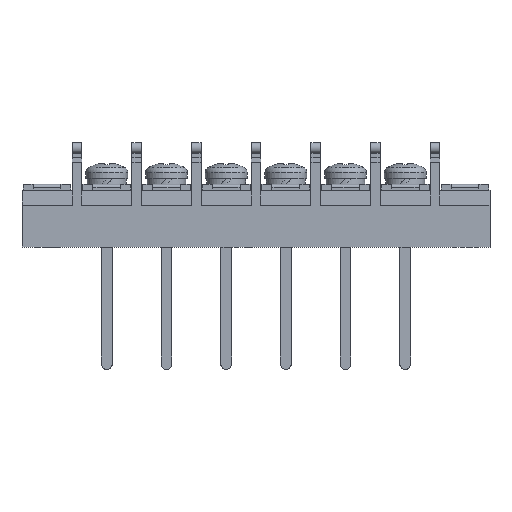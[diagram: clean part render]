
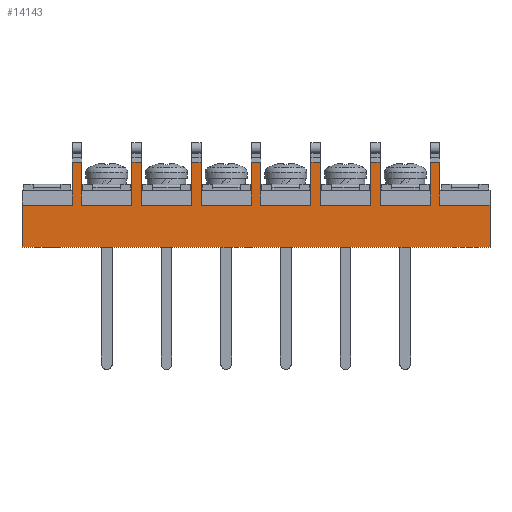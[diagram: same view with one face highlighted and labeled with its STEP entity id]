
A CAD part, top view. The second image highlights one B-rep face of the part: STEP entity #14143.
In plain terms, the highlighted planar face has unit normal (0, 0, 1).
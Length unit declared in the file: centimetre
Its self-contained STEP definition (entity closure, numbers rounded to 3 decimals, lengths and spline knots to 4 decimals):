
#993=VECTOR('',#15877,1.);
#1003=VECTOR('',#15892,1.);
#1133=VECTOR('',#16209,1.);
#1159=VECTOR('',#16238,1.);
#1204=VECTOR('',#16299,1.);
#1205=VECTOR('',#16301,1.);
#1206=VECTOR('',#16302,1.);
#1207=VECTOR('',#16303,1.);
#1208=VECTOR('',#16304,1.);
#1209=VECTOR('',#16305,1.);
#1210=VECTOR('',#16306,1.);
#1211=VECTOR('',#16307,1.);
#1212=VECTOR('',#16308,1.);
#1213=VECTOR('',#16309,1.);
#1214=VECTOR('',#16310,1.);
#1215=VECTOR('',#16311,1.);
#1216=VECTOR('',#16312,1.);
#1217=VECTOR('',#16313,1.);
#1218=VECTOR('',#16314,1.);
#1219=VECTOR('',#16315,1.);
#1220=VECTOR('',#16316,1.);
#1221=VECTOR('',#16317,1.);
#1222=VECTOR('',#16318,1.);
#1223=VECTOR('',#16319,1.);
#1224=VECTOR('',#16320,1.);
#1225=VECTOR('',#16321,1.);
#1226=VECTOR('',#16322,1.);
#1227=VECTOR('',#16323,1.);
#1228=VECTOR('',#16324,1.);
#1229=VECTOR('',#16325,1.);
#1230=VECTOR('',#16326,1.);
#1231=VECTOR('',#16327,1.);
#2615=LINE('',#19857,#993);
#2625=LINE('',#19881,#1003);
#2755=LINE('',#20301,#1133);
#2781=LINE('',#20355,#1159);
#2826=LINE('',#20448,#1204);
#2827=LINE('',#20450,#1205);
#2828=LINE('',#20452,#1206);
#2829=LINE('',#20454,#1207);
#2830=LINE('',#20456,#1208);
#2831=LINE('',#20458,#1209);
#2832=LINE('',#20460,#1210);
#2833=LINE('',#20462,#1211);
#2834=LINE('',#20464,#1212);
#2835=LINE('',#20466,#1213);
#2836=LINE('',#20468,#1214);
#2837=LINE('',#20470,#1215);
#2838=LINE('',#20472,#1216);
#2839=LINE('',#20474,#1217);
#2840=LINE('',#20476,#1218);
#2841=LINE('',#20478,#1219);
#2842=LINE('',#20480,#1220);
#2843=LINE('',#20482,#1221);
#2844=LINE('',#20484,#1222);
#2845=LINE('',#20486,#1223);
#2846=LINE('',#20488,#1224);
#2847=LINE('',#20489,#1225);
#2848=LINE('',#20491,#1226);
#2849=LINE('',#20493,#1227);
#2850=LINE('',#20495,#1228);
#2851=LINE('',#20497,#1229);
#2852=LINE('',#20499,#1230);
#2853=LINE('',#20501,#1231);
#4229=VERTEX_POINT('',#19858);
#4230=VERTEX_POINT('',#19859);
#4239=VERTEX_POINT('',#19880);
#4368=VERTEX_POINT('',#20300);
#4369=VERTEX_POINT('',#20302);
#4395=VERTEX_POINT('',#20356);
#4430=VERTEX_POINT('',#20447);
#4431=VERTEX_POINT('',#20451);
#4432=VERTEX_POINT('',#20453);
#4433=VERTEX_POINT('',#20455);
#4434=VERTEX_POINT('',#20457);
#4435=VERTEX_POINT('',#20459);
#4436=VERTEX_POINT('',#20461);
#4437=VERTEX_POINT('',#20463);
#4438=VERTEX_POINT('',#20465);
#4439=VERTEX_POINT('',#20467);
#4440=VERTEX_POINT('',#20469);
#4441=VERTEX_POINT('',#20471);
#4442=VERTEX_POINT('',#20473);
#4443=VERTEX_POINT('',#20475);
#4444=VERTEX_POINT('',#20477);
#4445=VERTEX_POINT('',#20479);
#4446=VERTEX_POINT('',#20481);
#4447=VERTEX_POINT('',#20483);
#4448=VERTEX_POINT('',#20485);
#4449=VERTEX_POINT('',#20487);
#4450=VERTEX_POINT('',#20490);
#4451=VERTEX_POINT('',#20492);
#4452=VERTEX_POINT('',#20494);
#4453=VERTEX_POINT('',#20496);
#4454=VERTEX_POINT('',#20498);
#4455=VERTEX_POINT('',#20500);
#6084=EDGE_CURVE('',#4229,#4230,#2615,.T.);
#6095=EDGE_CURVE('',#4239,#4230,#2625,.T.);
#6282=EDGE_CURVE('',#4369,#4368,#2755,.T.);
#6309=EDGE_CURVE('',#4395,#4229,#2781,.T.);
#6356=EDGE_CURVE('',#4430,#4368,#2826,.T.);
#6357=EDGE_CURVE('',#4239,#4431,#2827,.T.);
#6358=EDGE_CURVE('',#4432,#4431,#2828,.T.);
#6359=EDGE_CURVE('',#4432,#4433,#2829,.T.);
#6360=EDGE_CURVE('',#4434,#4433,#2830,.T.);
#6361=EDGE_CURVE('',#4434,#4435,#2831,.T.);
#6362=EDGE_CURVE('',#4436,#4435,#2832,.T.);
#6363=EDGE_CURVE('',#4436,#4437,#2833,.T.);
#6364=EDGE_CURVE('',#4438,#4437,#2834,.T.);
#6365=EDGE_CURVE('',#4438,#4439,#2835,.T.);
#6366=EDGE_CURVE('',#4440,#4439,#2836,.T.);
#6367=EDGE_CURVE('',#4440,#4441,#2837,.T.);
#6368=EDGE_CURVE('',#4442,#4441,#2838,.T.);
#6369=EDGE_CURVE('',#4442,#4443,#2839,.T.);
#6370=EDGE_CURVE('',#4444,#4443,#2840,.T.);
#6371=EDGE_CURVE('',#4444,#4445,#2841,.T.);
#6372=EDGE_CURVE('',#4446,#4445,#2842,.T.);
#6373=EDGE_CURVE('',#4446,#4447,#2843,.T.);
#6374=EDGE_CURVE('',#4448,#4447,#2844,.T.);
#6375=EDGE_CURVE('',#4448,#4449,#2845,.T.);
#6376=EDGE_CURVE('',#4369,#4449,#2846,.T.);
#6377=EDGE_CURVE('',#4430,#4450,#2847,.T.);
#6378=EDGE_CURVE('',#4451,#4450,#2848,.T.);
#6379=EDGE_CURVE('',#4451,#4452,#2849,.T.);
#6380=EDGE_CURVE('',#4453,#4452,#2850,.T.);
#6381=EDGE_CURVE('',#4453,#4454,#2851,.T.);
#6382=EDGE_CURVE('',#4455,#4454,#2852,.T.);
#6383=EDGE_CURVE('',#4455,#4395,#2853,.T.);
#9228=ORIENTED_EDGE('',*,*,#6309,.T.);
#9229=ORIENTED_EDGE('',*,*,#6084,.T.);
#9230=ORIENTED_EDGE('',*,*,#6095,.F.);
#9231=ORIENTED_EDGE('',*,*,#6357,.T.);
#9232=ORIENTED_EDGE('',*,*,#6358,.F.);
#9233=ORIENTED_EDGE('',*,*,#6359,.T.);
#9234=ORIENTED_EDGE('',*,*,#6360,.F.);
#9235=ORIENTED_EDGE('',*,*,#6361,.T.);
#9236=ORIENTED_EDGE('',*,*,#6362,.F.);
#9237=ORIENTED_EDGE('',*,*,#6363,.T.);
#9238=ORIENTED_EDGE('',*,*,#6364,.F.);
#9239=ORIENTED_EDGE('',*,*,#6365,.T.);
#9240=ORIENTED_EDGE('',*,*,#6366,.F.);
#9241=ORIENTED_EDGE('',*,*,#6367,.T.);
#9242=ORIENTED_EDGE('',*,*,#6368,.F.);
#9243=ORIENTED_EDGE('',*,*,#6369,.T.);
#9244=ORIENTED_EDGE('',*,*,#6370,.F.);
#9245=ORIENTED_EDGE('',*,*,#6371,.T.);
#9246=ORIENTED_EDGE('',*,*,#6372,.F.);
#9247=ORIENTED_EDGE('',*,*,#6373,.T.);
#9248=ORIENTED_EDGE('',*,*,#6374,.F.);
#9249=ORIENTED_EDGE('',*,*,#6375,.T.);
#9250=ORIENTED_EDGE('',*,*,#6376,.F.);
#9251=ORIENTED_EDGE('',*,*,#6282,.T.);
#9252=ORIENTED_EDGE('',*,*,#6356,.F.);
#9253=ORIENTED_EDGE('',*,*,#6377,.T.);
#9254=ORIENTED_EDGE('',*,*,#6378,.F.);
#9255=ORIENTED_EDGE('',*,*,#6379,.T.);
#9256=ORIENTED_EDGE('',*,*,#6380,.F.);
#9257=ORIENTED_EDGE('',*,*,#6381,.T.);
#9258=ORIENTED_EDGE('',*,*,#6382,.F.);
#9259=ORIENTED_EDGE('',*,*,#6383,.T.);
#12362=EDGE_LOOP('',(#9228,#9229,#9230,#9231,#9232,#9233,#9234,#9235,#9236,
#9237,#9238,#9239,#9240,#9241,#9242,#9243,#9244,#9245,#9246,#9247,#9248,
#9249,#9250,#9251,#9252,#9253,#9254,#9255,#9256,#9257,#9258,#9259));
#13274=FACE_BOUND('',#12362,.T.);
#14143=ADVANCED_FACE('',(#13274),#14883,.T.);
#14883=PLANE('',#24146);
#15877=DIRECTION('',(0.,1.,0.));
#15892=DIRECTION('',(1.,0.,0.));
#16209=DIRECTION('',(0.,1.,0.));
#16238=DIRECTION('',(1.,0.,0.));
#16299=DIRECTION('',(1.,0.,0.));
#16300=DIRECTION('',(0.,0.,1.));
#16301=DIRECTION('',(0.,1.,0.));
#16302=DIRECTION('',(1.,0.,0.));
#16303=DIRECTION('',(0.,-1.,0.));
#16304=DIRECTION('',(1.,0.,0.));
#16305=DIRECTION('',(0.,1.,0.));
#16306=DIRECTION('',(1.,0.,0.));
#16307=DIRECTION('',(0.,-1.,0.));
#16308=DIRECTION('',(1.,0.,0.));
#16309=DIRECTION('',(0.,1.,0.));
#16310=DIRECTION('',(1.,0.,0.));
#16311=DIRECTION('',(0.,-1.,0.));
#16312=DIRECTION('',(1.,0.,0.));
#16313=DIRECTION('',(0.,1.,0.));
#16314=DIRECTION('',(1.,0.,0.));
#16315=DIRECTION('',(0.,-1.,0.));
#16316=DIRECTION('',(1.,0.,0.));
#16317=DIRECTION('',(0.,1.,0.));
#16318=DIRECTION('',(1.,0.,0.));
#16319=DIRECTION('',(0.,-1.,0.));
#16320=DIRECTION('',(1.,0.,0.));
#16321=DIRECTION('',(0.,-1.,0.));
#16322=DIRECTION('',(1.,0.,0.));
#16323=DIRECTION('',(0.,1.,0.));
#16324=DIRECTION('',(1.,0.,0.));
#16325=DIRECTION('',(0.,-1.,0.));
#16326=DIRECTION('',(1.,0.,0.));
#16327=DIRECTION('',(0.,-1.,0.));
#19857=CARTESIAN_POINT('',(6.,0.7,0.65));
#19858=CARTESIAN_POINT('',(6.,0.,0.65));
#19859=CARTESIAN_POINT('',(6.,0.7,0.65));
#19880=CARTESIAN_POINT('',(5.16,0.7,0.65));
#19881=CARTESIAN_POINT('',(5.16,0.7,0.65));
#20300=CARTESIAN_POINT('',(0.16,1.42,0.65));
#20301=CARTESIAN_POINT('',(0.16,1.42,0.65));
#20302=CARTESIAN_POINT('',(0.16,0.7,0.65));
#20355=CARTESIAN_POINT('',(0.,0.,0.65));
#20356=CARTESIAN_POINT('',(-1.84,0.,0.65));
#20447=CARTESIAN_POINT('',(0.,1.42,0.65));
#20448=CARTESIAN_POINT('',(0.,1.42,0.65));
#20449=CARTESIAN_POINT('',(0.,0.71,0.65));
#20450=CARTESIAN_POINT('',(5.16,1.42,0.65));
#20451=CARTESIAN_POINT('',(5.16,1.42,0.65));
#20452=CARTESIAN_POINT('',(5.,1.42,0.65));
#20453=CARTESIAN_POINT('',(5.,1.42,0.65));
#20454=CARTESIAN_POINT('',(5.,1.42,0.65));
#20455=CARTESIAN_POINT('',(5.,0.7,0.65));
#20456=CARTESIAN_POINT('',(4.16,0.7,0.65));
#20457=CARTESIAN_POINT('',(4.16,0.7,0.65));
#20458=CARTESIAN_POINT('',(4.16,1.42,0.65));
#20459=CARTESIAN_POINT('',(4.16,1.42,0.65));
#20460=CARTESIAN_POINT('',(4.,1.42,0.65));
#20461=CARTESIAN_POINT('',(4.,1.42,0.65));
#20462=CARTESIAN_POINT('',(4.,1.42,0.65));
#20463=CARTESIAN_POINT('',(4.,0.7,0.65));
#20464=CARTESIAN_POINT('',(3.16,0.7,0.65));
#20465=CARTESIAN_POINT('',(3.16,0.7,0.65));
#20466=CARTESIAN_POINT('',(3.16,1.42,0.65));
#20467=CARTESIAN_POINT('',(3.16,1.42,0.65));
#20468=CARTESIAN_POINT('',(3.,1.42,0.65));
#20469=CARTESIAN_POINT('',(3.,1.42,0.65));
#20470=CARTESIAN_POINT('',(3.,1.42,0.65));
#20471=CARTESIAN_POINT('',(3.,0.7,0.65));
#20472=CARTESIAN_POINT('',(2.16,0.7,0.65));
#20473=CARTESIAN_POINT('',(2.16,0.7,0.65));
#20474=CARTESIAN_POINT('',(2.16,1.42,0.65));
#20475=CARTESIAN_POINT('',(2.16,1.42,0.65));
#20476=CARTESIAN_POINT('',(2.,1.42,0.65));
#20477=CARTESIAN_POINT('',(2.,1.42,0.65));
#20478=CARTESIAN_POINT('',(2.,1.42,0.65));
#20479=CARTESIAN_POINT('',(2.,0.7,0.65));
#20480=CARTESIAN_POINT('',(1.16,0.7,0.65));
#20481=CARTESIAN_POINT('',(1.16,0.7,0.65));
#20482=CARTESIAN_POINT('',(1.16,1.42,0.65));
#20483=CARTESIAN_POINT('',(1.16,1.42,0.65));
#20484=CARTESIAN_POINT('',(1.,1.42,0.65));
#20485=CARTESIAN_POINT('',(1.,1.42,0.65));
#20486=CARTESIAN_POINT('',(1.,1.42,0.65));
#20487=CARTESIAN_POINT('',(1.,0.7,0.65));
#20488=CARTESIAN_POINT('',(0.16,0.7,0.65));
#20489=CARTESIAN_POINT('',(0.,1.42,0.65));
#20490=CARTESIAN_POINT('',(0.,0.7,0.65));
#20491=CARTESIAN_POINT('',(-0.84,0.7,0.65));
#20492=CARTESIAN_POINT('',(-0.84,0.7,0.65));
#20493=CARTESIAN_POINT('',(-0.84,1.42,0.65));
#20494=CARTESIAN_POINT('',(-0.84,1.42,0.65));
#20495=CARTESIAN_POINT('',(-1.,1.42,0.65));
#20496=CARTESIAN_POINT('',(-1.,1.42,0.65));
#20497=CARTESIAN_POINT('',(-1.,1.42,0.65));
#20498=CARTESIAN_POINT('',(-1.,0.7,0.65));
#20499=CARTESIAN_POINT('',(-1.84,0.7,0.65));
#20500=CARTESIAN_POINT('',(-1.84,0.7,0.65));
#20501=CARTESIAN_POINT('',(-1.84,0.7,0.65));
#24146=AXIS2_PLACEMENT_3D('',#20449,#16300,$);
